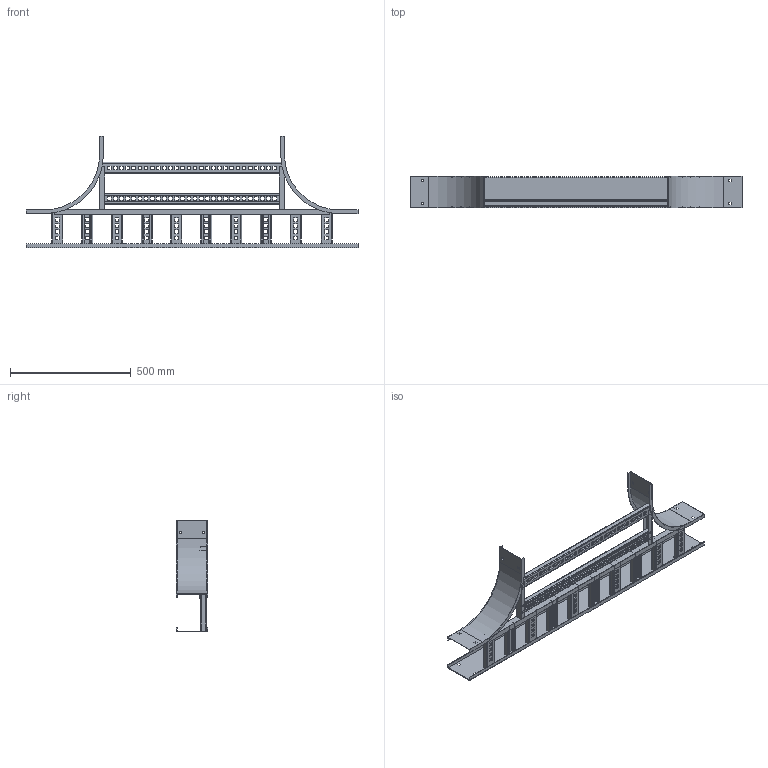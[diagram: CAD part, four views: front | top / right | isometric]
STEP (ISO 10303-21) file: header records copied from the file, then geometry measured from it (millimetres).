
FILE_DESCRIPTION((''),'2;1');
FILE_NAME('AUF50630VET12_ASM','2010-02-04T',('erouzier'),(''),'PRO/ENGINEER BY PARAMETRIC TECHNOLOGY CORPORATION, 2008510','PRO/ENGINEER BY PARAMETRIC TECHNOLOGY CORPORATION, 2008510','');
FILE_SCHEMA(('CONFIG_CONTROL_DESIGN'));
Length unit declared in the file: inch
Products named in the file (17): CDS001320-5-90-9-I; CDS013842-5-54; CDS000495_GEN_AF9; CDS002159L6-P_AF8; CDS002159L6-P_AF9; CDS002159L6-P_AF10; CDS002159L6-P_AF11; CDS002159L6-P; CDS002159L6-P_AF12; CDS002159L6-P_AF13; CDS002159L6-P_AF14; CDS002159L6-P_AF15; CDS000495_GEN_AF10; CDS000495_GEN_AF11; CDS002159L30-P_AF2; CDS002159L30-P_AF3; AUF50630VET12_ASM
Assembly tree (18 placements, depth 2):
  AUF50630VET12_ASM
    CDS001320-5-90-9-I  x2
    CDS013842-5-54
    CDS000495_GEN_AF9
    CDS002159L6-P_AF8
    CDS002159L6-P_AF9
    CDS002159L6-P_AF10
    CDS002159L6-P_AF11
    CDS002159L6-P  x2
    CDS002159L6-P_AF12
    CDS002159L6-P_AF13
    CDS002159L6-P_AF14
    CDS002159L6-P_AF15
    CDS000495_GEN_AF10
    CDS000495_GEN_AF11
    CDS002159L30-P_AF2
    CDS002159L30-P_AF3
Bounding box: 1376.68 x 129.03 x 462.03 mm (x, y, z)
Volume: 1519837.7 mm3; surface area: 1653052.3 mm2
Topology: 18 solids, 18 shells, 1252 faces, 3648 edges, 2432 vertices
Faces by surface type: plane 728, cylinder 524
Entity records: 39227 total; most frequent: CARTESIAN_POINT 6811, ORIENTED_EDGE 6744, DIRECTION 6740, EDGE_CURVE 3372, VECTOR 2386, LINE 2386, VERTEX_POINT 2248, AXIS2_PLACEMENT_3D 2177
